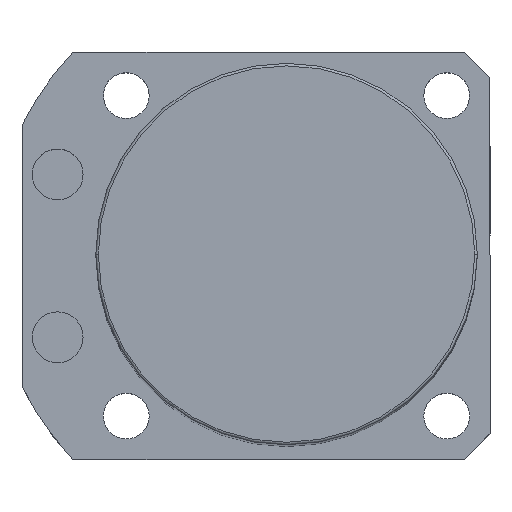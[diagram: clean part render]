
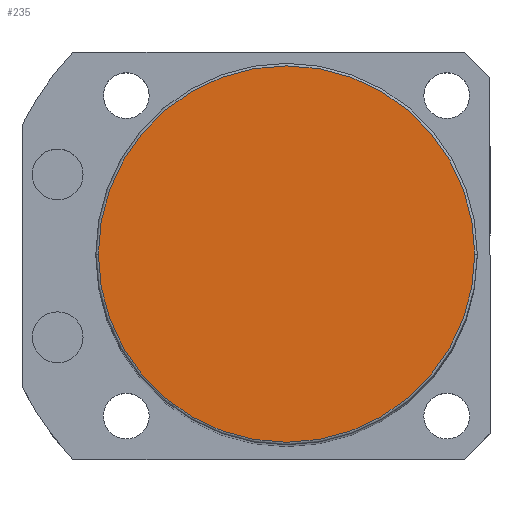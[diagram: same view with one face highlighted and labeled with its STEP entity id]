
A CAD part, top view. The second image highlights one B-rep face of the part: STEP entity #235.
In plain terms, the highlighted planar face has unit normal (0, 0, 1).
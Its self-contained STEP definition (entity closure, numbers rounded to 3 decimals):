
#36 = CIRCLE ( 'NONE', #1264, 37. ) ;
#92 = VERTEX_POINT ( 'NONE', #995 ) ;
#179 = CARTESIAN_POINT ( 'NONE',  ( -37., 0., 220.5 ) ) ;
#235 = ADVANCED_FACE ( 'NONE', ( #2224 ), #2040, .T. ) ;
#480 = ORIENTED_EDGE ( 'NONE', *, *, #843, .T. ) ;
#508 = VERTEX_POINT ( 'NONE', #179 ) ;
#555 = AXIS2_PLACEMENT_3D ( 'NONE', #1454, #1081, #856 ) ;
#628 = CARTESIAN_POINT ( 'NONE',  ( 0., 0., 220.5 ) ) ;
#843 = EDGE_CURVE ( 'NONE', #92, #508, #36, .T. ) ;
#856 = DIRECTION ( 'NONE',  ( 1., 0., 0. ) ) ;
#995 = CARTESIAN_POINT ( 'NONE',  ( 37., 0., 220.5 ) ) ;
#1030 = DIRECTION ( 'NONE',  ( 1., 0., 0. ) ) ;
#1081 = DIRECTION ( 'NONE',  ( 0., 0., 1. ) ) ;
#1087 = CIRCLE ( 'NONE', #1688, 37. ) ;
#1260 = EDGE_CURVE ( 'NONE', #508, #92, #1087, .T. ) ;
#1264 = AXIS2_PLACEMENT_3D ( 'NONE', #628, #2239, #1030 ) ;
#1432 = DIRECTION ( 'NONE',  ( 1., 0., 0. ) ) ;
#1454 = CARTESIAN_POINT ( 'NONE',  ( 0., 0., 220.5 ) ) ;
#1615 = DIRECTION ( 'NONE',  ( 0., 0., 1. ) ) ;
#1688 = AXIS2_PLACEMENT_3D ( 'NONE', #2393, #1615, #1432 ) ;
#2040 = PLANE ( 'NONE',  #555 ) ;
#2164 = EDGE_LOOP ( 'NONE', ( #480, #2505 ) ) ;
#2224 = FACE_OUTER_BOUND ( 'NONE', #2164, .T. ) ;
#2239 = DIRECTION ( 'NONE',  ( 0., 0., 1. ) ) ;
#2393 = CARTESIAN_POINT ( 'NONE',  ( 0., 0., 220.5 ) ) ;
#2505 = ORIENTED_EDGE ( 'NONE', *, *, #1260, .T. ) ;
